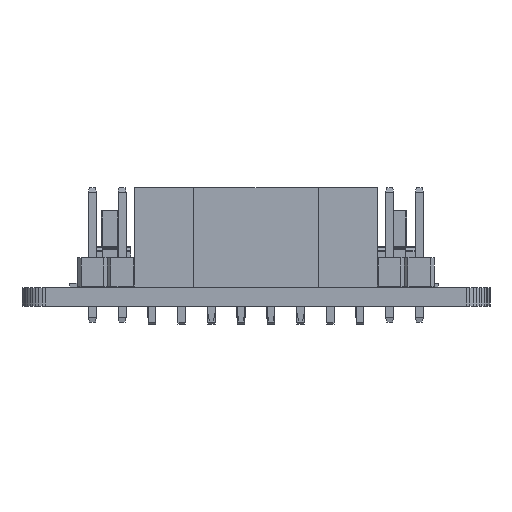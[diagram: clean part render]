
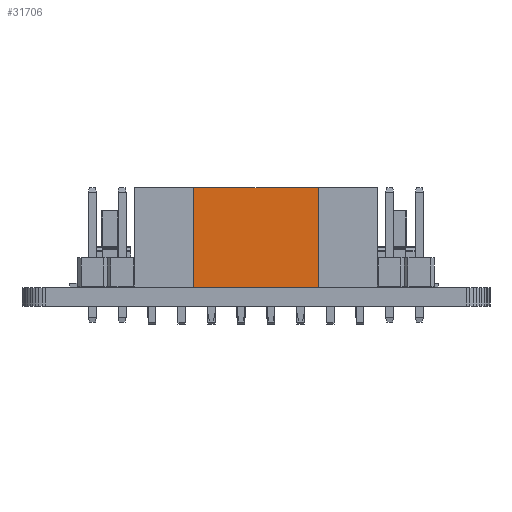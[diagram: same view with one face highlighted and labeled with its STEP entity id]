
A CAD part, front view. The second image highlights one B-rep face of the part: STEP entity #31706.
In plain terms, the highlighted planar face has unit normal (0, -1, 0).
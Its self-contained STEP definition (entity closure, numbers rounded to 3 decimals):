
#25750 = PLANE('',#25751);
#25751 = AXIS2_PLACEMENT_3D('',#25752,#25753,#25754);
#25752 = CARTESIAN_POINT('',(5.33,-1.25,8.5));
#25753 = DIRECTION('',(-1.,0.,0.));
#25754 = DIRECTION('',(0.,0.,1.));
#25778 = PLANE('',#25779);
#25779 = AXIS2_PLACEMENT_3D('',#25780,#25781,#25782);
#25780 = CARTESIAN_POINT('',(0.,0.,8.5));
#25781 = DIRECTION('',(0.,0.,-1.));
#25782 = DIRECTION('',(-1.,0.,-0.));
#25806 = PLANE('',#25807);
#25807 = AXIS2_PLACEMENT_3D('',#25808,#25809,#25810);
#25808 = CARTESIAN_POINT('',(-5.33,-1.25,8.5));
#25809 = DIRECTION('',(1.,0.,0.));
#25810 = DIRECTION('',(0.,0.,-1.));
#29392 = PLANE('',#29393);
#29393 = AXIS2_PLACEMENT_3D('',#29394,#29395,#29396);
#29394 = CARTESIAN_POINT('',(0.,0.,0.));
#29395 = DIRECTION('',(0.,0.,-1.));
#29396 = DIRECTION('',(-1.,0.,-0.));
#29417 = VERTEX_POINT('',#29418);
#29418 = CARTESIAN_POINT('',(5.33,-1.25,0.));
#29439 = EDGE_CURVE('',#29440,#29417,#29442,.T.);
#29440 = VERTEX_POINT('',#29441);
#29441 = CARTESIAN_POINT('',(-5.33,-1.25,0.));
#29442 = SURFACE_CURVE('',#29443,(#29447,#29454),.PCURVE_S1.);
#29443 = LINE('',#29444,#29445);
#29444 = CARTESIAN_POINT('',(-5.33,-1.25,0.));
#29445 = VECTOR('',#29446,1.);
#29446 = DIRECTION('',(1.,0.,0.));
#29447 = PCURVE('',#29392,#29448);
#29448 = DEFINITIONAL_REPRESENTATION('',(#29449),#29453);
#29449 = LINE('',#29450,#29451);
#29450 = CARTESIAN_POINT('',(5.33,-1.25));
#29451 = VECTOR('',#29452,1.);
#29452 = DIRECTION('',(-1.,0.));
#29453 = ( GEOMETRIC_REPRESENTATION_CONTEXT(2) 
PARAMETRIC_REPRESENTATION_CONTEXT() REPRESENTATION_CONTEXT('2D SPACE',''
  ) );
#29454 = PCURVE('',#29455,#29460);
#29455 = PLANE('',#29456);
#29456 = AXIS2_PLACEMENT_3D('',#29457,#29458,#29459);
#29457 = CARTESIAN_POINT('',(-5.33,-1.25,8.5));
#29458 = DIRECTION('',(0.,1.,0.));
#29459 = DIRECTION('',(0.,-0.,1.));
#29460 = DEFINITIONAL_REPRESENTATION('',(#29461),#29465);
#29461 = LINE('',#29462,#29463);
#29462 = CARTESIAN_POINT('',(-8.5,0.));
#29463 = VECTOR('',#29464,1.);
#29464 = DIRECTION('',(0.,1.));
#29465 = ( GEOMETRIC_REPRESENTATION_CONTEXT(2) 
PARAMETRIC_REPRESENTATION_CONTEXT() REPRESENTATION_CONTEXT('2D SPACE',''
  ) );
#31160 = EDGE_CURVE('',#31161,#31163,#31165,.T.);
#31161 = VERTEX_POINT('',#31162);
#31162 = CARTESIAN_POINT('',(-5.33,-1.25,8.5));
#31163 = VERTEX_POINT('',#31164);
#31164 = CARTESIAN_POINT('',(5.33,-1.25,8.5));
#31165 = SURFACE_CURVE('',#31166,(#31170,#31177),.PCURVE_S1.);
#31166 = LINE('',#31167,#31168);
#31167 = CARTESIAN_POINT('',(-5.33,-1.25,8.5));
#31168 = VECTOR('',#31169,1.);
#31169 = DIRECTION('',(1.,0.,0.));
#31170 = PCURVE('',#25778,#31171);
#31171 = DEFINITIONAL_REPRESENTATION('',(#31172),#31176);
#31172 = LINE('',#31173,#31174);
#31173 = CARTESIAN_POINT('',(5.33,-1.25));
#31174 = VECTOR('',#31175,1.);
#31175 = DIRECTION('',(-1.,0.));
#31176 = ( GEOMETRIC_REPRESENTATION_CONTEXT(2) 
PARAMETRIC_REPRESENTATION_CONTEXT() REPRESENTATION_CONTEXT('2D SPACE',''
  ) );
#31177 = PCURVE('',#29455,#31178);
#31178 = DEFINITIONAL_REPRESENTATION('',(#31179),#31183);
#31179 = LINE('',#31180,#31181);
#31180 = CARTESIAN_POINT('',(0.,0.));
#31181 = VECTOR('',#31182,1.);
#31182 = DIRECTION('',(0.,1.));
#31183 = ( GEOMETRIC_REPRESENTATION_CONTEXT(2) 
PARAMETRIC_REPRESENTATION_CONTEXT() REPRESENTATION_CONTEXT('2D SPACE',''
  ) );
#31471 = EDGE_CURVE('',#31163,#29417,#31472,.T.);
#31472 = SURFACE_CURVE('',#31473,(#31477,#31484),.PCURVE_S1.);
#31473 = LINE('',#31474,#31475);
#31474 = CARTESIAN_POINT('',(5.33,-1.25,8.5));
#31475 = VECTOR('',#31476,1.);
#31476 = DIRECTION('',(-0.,-0.,-1.));
#31477 = PCURVE('',#25750,#31478);
#31478 = DEFINITIONAL_REPRESENTATION('',(#31479),#31483);
#31479 = LINE('',#31480,#31481);
#31480 = CARTESIAN_POINT('',(0.,0.));
#31481 = VECTOR('',#31482,1.);
#31482 = DIRECTION('',(-1.,0.));
#31483 = ( GEOMETRIC_REPRESENTATION_CONTEXT(2) 
PARAMETRIC_REPRESENTATION_CONTEXT() REPRESENTATION_CONTEXT('2D SPACE',''
  ) );
#31484 = PCURVE('',#29455,#31485);
#31485 = DEFINITIONAL_REPRESENTATION('',(#31486),#31490);
#31486 = LINE('',#31487,#31488);
#31487 = CARTESIAN_POINT('',(0.,10.66));
#31488 = VECTOR('',#31489,1.);
#31489 = DIRECTION('',(-1.,0.));
#31490 = ( GEOMETRIC_REPRESENTATION_CONTEXT(2) 
PARAMETRIC_REPRESENTATION_CONTEXT() REPRESENTATION_CONTEXT('2D SPACE',''
  ) );
#31641 = EDGE_CURVE('',#31161,#29440,#31642,.T.);
#31642 = SURFACE_CURVE('',#31643,(#31647,#31654),.PCURVE_S1.);
#31643 = LINE('',#31644,#31645);
#31644 = CARTESIAN_POINT('',(-5.33,-1.25,8.5));
#31645 = VECTOR('',#31646,1.);
#31646 = DIRECTION('',(-0.,-0.,-1.));
#31647 = PCURVE('',#25806,#31648);
#31648 = DEFINITIONAL_REPRESENTATION('',(#31649),#31653);
#31649 = LINE('',#31650,#31651);
#31650 = CARTESIAN_POINT('',(0.,0.));
#31651 = VECTOR('',#31652,1.);
#31652 = DIRECTION('',(1.,0.));
#31653 = ( GEOMETRIC_REPRESENTATION_CONTEXT(2) 
PARAMETRIC_REPRESENTATION_CONTEXT() REPRESENTATION_CONTEXT('2D SPACE',''
  ) );
#31654 = PCURVE('',#29455,#31655);
#31655 = DEFINITIONAL_REPRESENTATION('',(#31656),#31660);
#31656 = LINE('',#31657,#31658);
#31657 = CARTESIAN_POINT('',(0.,0.));
#31658 = VECTOR('',#31659,1.);
#31659 = DIRECTION('',(-1.,0.));
#31660 = ( GEOMETRIC_REPRESENTATION_CONTEXT(2) 
PARAMETRIC_REPRESENTATION_CONTEXT() REPRESENTATION_CONTEXT('2D SPACE',''
  ) );
#31706 = ADVANCED_FACE('',(#31707),#29455,.F.);
#31707 = FACE_BOUND('',#31708,.T.);
#31708 = EDGE_LOOP('',(#31709,#31710,#31711,#31712));
#31709 = ORIENTED_EDGE('',*,*,#29439,.T.);
#31710 = ORIENTED_EDGE('',*,*,#31471,.F.);
#31711 = ORIENTED_EDGE('',*,*,#31160,.F.);
#31712 = ORIENTED_EDGE('',*,*,#31641,.T.);
